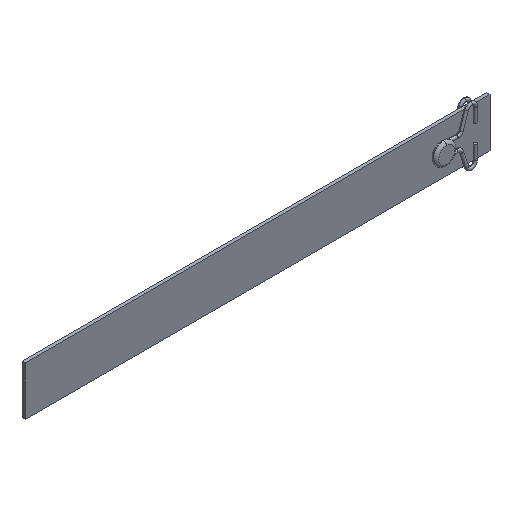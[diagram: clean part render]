
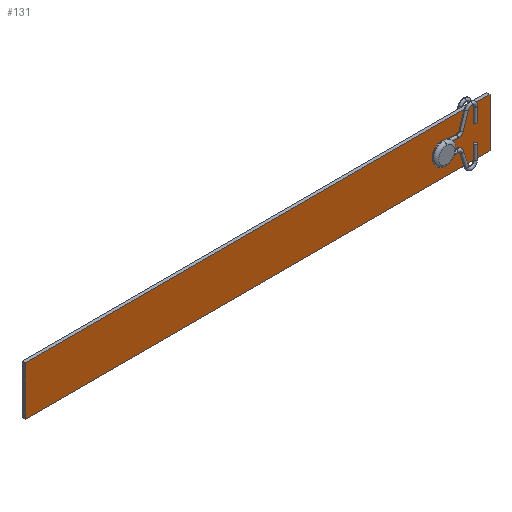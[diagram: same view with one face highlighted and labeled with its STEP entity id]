
A CAD part, isometric view. The second image highlights one B-rep face of the part: STEP entity #131.
In plain terms, the highlighted planar face has unit normal (0, -1, 0).
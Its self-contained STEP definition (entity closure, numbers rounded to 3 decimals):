
#15 = CARTESIAN_POINT ( 'NONE',  ( 0., -0.5, 7.9 ) ) ;
#100 = CARTESIAN_POINT ( 'NONE',  ( -16., -0.5, -1.95 ) ) ;
#131 = ADVANCED_FACE ( 'NONE', ( #989, #1884 ), #576, .F. ) ;
#181 = CARTESIAN_POINT ( 'NONE',  ( -150., -0.5, -7.9 ) ) ;
#215 = ORIENTED_EDGE ( 'NONE', *, *, #682, .T. ) ;
#228 = LINE ( 'NONE', #408, #1995 ) ;
#229 = AXIS2_PLACEMENT_3D ( 'NONE', #346, #502, #509 ) ;
#239 = ORIENTED_EDGE ( 'NONE', *, *, #1786, .F. ) ;
#271 = VECTOR ( 'NONE', #1145, 1000. ) ;
#278 = CARTESIAN_POINT ( 'NONE',  ( 0., -0.5, 7.9 ) ) ;
#346 = CARTESIAN_POINT ( 'NONE',  ( -16., -0.5, 0. ) ) ;
#364 = DIRECTION ( 'NONE',  ( 1., 0., 0. ) ) ;
#377 = DIRECTION ( 'NONE',  ( 0., 0., 1. ) ) ;
#408 = CARTESIAN_POINT ( 'NONE',  ( -150., -0.5, -7.9 ) ) ;
#502 = DIRECTION ( 'NONE',  ( 0., 1., 0. ) ) ;
#509 = DIRECTION ( 'NONE',  ( 0., 0., 1. ) ) ;
#539 = VERTEX_POINT ( 'NONE', #100 ) ;
#547 = AXIS2_PLACEMENT_3D ( 'NONE', #1950, #1280, #627 ) ;
#576 = PLANE ( 'NONE',  #1108 ) ;
#589 = VERTEX_POINT ( 'NONE', #1489 ) ;
#627 = DIRECTION ( 'NONE',  ( 0., 0., 1. ) ) ;
#682 = EDGE_CURVE ( 'NONE', #1388, #539, #838, .T. ) ;
#729 = LINE ( 'NONE', #2163, #271 ) ;
#753 = CIRCLE ( 'NONE', #229, 1.95 ) ;
#838 = CIRCLE ( 'NONE', #547, 1.95 ) ;
#921 = CARTESIAN_POINT ( 'NONE',  ( 0., -0.5, 0. ) ) ;
#945 = DIRECTION ( 'NONE',  ( 0., 0., -1. ) ) ;
#973 = EDGE_LOOP ( 'NONE', ( #1336, #1679, #239, #1093 ) ) ;
#989 = FACE_BOUND ( 'NONE', #1794, .T. ) ;
#1019 = EDGE_CURVE ( 'NONE', #539, #1388, #753, .T. ) ;
#1050 = VECTOR ( 'NONE', #945, 1000. ) ;
#1093 = ORIENTED_EDGE ( 'NONE', *, *, #1817, .F. ) ;
#1108 = AXIS2_PLACEMENT_3D ( 'NONE', #921, #1745, #2068 ) ;
#1145 = DIRECTION ( 'NONE',  ( -1., 0., 0. ) ) ;
#1280 = DIRECTION ( 'NONE',  ( 0., 1., 0. ) ) ;
#1300 = EDGE_CURVE ( 'NONE', #1808, #1555, #729, .T. ) ;
#1336 = ORIENTED_EDGE ( 'NONE', *, *, #1300, .F. ) ;
#1388 = VERTEX_POINT ( 'NONE', #1652 ) ;
#1489 = CARTESIAN_POINT ( 'NONE',  ( -150., -0.5, 7.9 ) ) ;
#1509 = LINE ( 'NONE', #278, #1050 ) ;
#1550 = CARTESIAN_POINT ( 'NONE',  ( 0., -0.5, -7.9 ) ) ;
#1555 = VERTEX_POINT ( 'NONE', #181 ) ;
#1606 = VERTEX_POINT ( 'NONE', #15 ) ;
#1643 = LINE ( 'NONE', #1724, #2040 ) ;
#1652 = CARTESIAN_POINT ( 'NONE',  ( -16., -0.5, 1.95 ) ) ;
#1679 = ORIENTED_EDGE ( 'NONE', *, *, #2064, .F. ) ;
#1724 = CARTESIAN_POINT ( 'NONE',  ( 0., -0.5, 7.9 ) ) ;
#1745 = DIRECTION ( 'NONE',  ( 0., 1., 0. ) ) ;
#1786 = EDGE_CURVE ( 'NONE', #589, #1606, #1643, .T. ) ;
#1794 = EDGE_LOOP ( 'NONE', ( #215, #1974 ) ) ;
#1808 = VERTEX_POINT ( 'NONE', #1550 ) ;
#1817 = EDGE_CURVE ( 'NONE', #1555, #589, #228, .T. ) ;
#1884 = FACE_OUTER_BOUND ( 'NONE', #973, .T. ) ;
#1950 = CARTESIAN_POINT ( 'NONE',  ( -16., -0.5, 0. ) ) ;
#1974 = ORIENTED_EDGE ( 'NONE', *, *, #1019, .T. ) ;
#1995 = VECTOR ( 'NONE', #377, 1000. ) ;
#2040 = VECTOR ( 'NONE', #364, 1000. ) ;
#2064 = EDGE_CURVE ( 'NONE', #1606, #1808, #1509, .T. ) ;
#2068 = DIRECTION ( 'NONE',  ( 0., 0., 1. ) ) ;
#2163 = CARTESIAN_POINT ( 'NONE',  ( 0., -0.5, -7.9 ) ) ;
